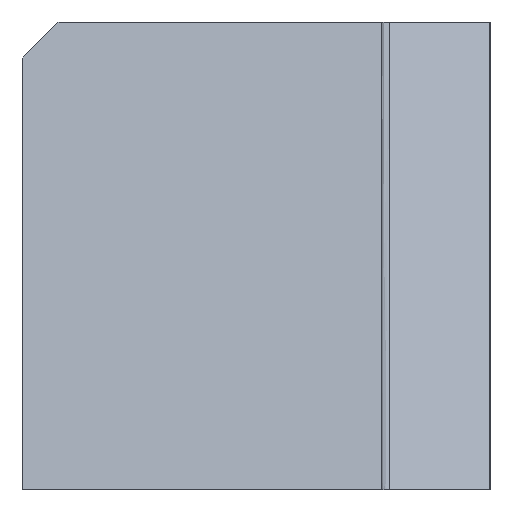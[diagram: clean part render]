
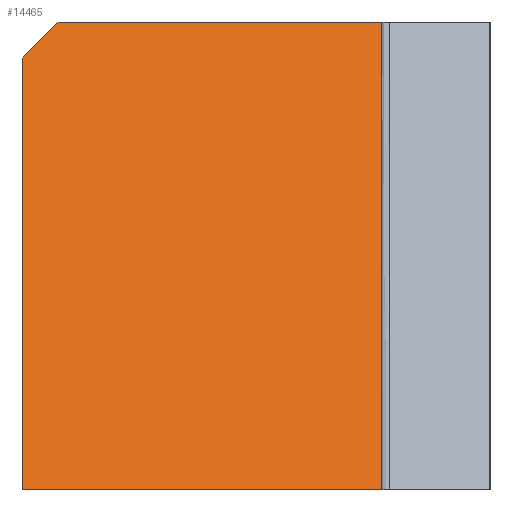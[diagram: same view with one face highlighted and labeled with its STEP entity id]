
A CAD part, left-side view. The second image highlights one B-rep face of the part: STEP entity #14465.
In plain terms, the highlighted planar face has unit normal (-0.943, 0, 0.334).
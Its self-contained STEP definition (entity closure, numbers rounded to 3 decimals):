
#1865=ORIENTED_EDGE('',*,*,#6237,.F.);
#1866=ORIENTED_EDGE('',*,*,#6238,.T.);
#1867=ORIENTED_EDGE('',*,*,#5212,.F.);
#1868=ORIENTED_EDGE('',*,*,#6239,.F.);
#1869=ORIENTED_EDGE('',*,*,#5784,.F.);
#5212=EDGE_CURVE('',#7398,#7399,#8829,.T.);
#5784=EDGE_CURVE('',#7969,#7971,#9222,.T.);
#6237=EDGE_CURVE('',#8423,#7969,#9525,.T.);
#6238=EDGE_CURVE('',#8423,#7399,#9526,.T.);
#6239=EDGE_CURVE('',#7971,#7398,#9527,.T.);
#7398=VERTEX_POINT('',#20420);
#7399=VERTEX_POINT('',#20421);
#7969=VERTEX_POINT('',#22041);
#7971=VERTEX_POINT('',#22044);
#8423=VERTEX_POINT('',#22950);
#8829=LINE('',#20419,#10557);
#9222=LINE('',#22043,#10950);
#9525=LINE('',#22949,#11253);
#9526=LINE('',#22951,#11254);
#9527=LINE('',#22952,#11255);
#10557=VECTOR('',#16243,1000.);
#10950=VECTOR('',#16938,1000.);
#11253=VECTOR('',#17543,1000.);
#11254=VECTOR('',#17544,1000.);
#11255=VECTOR('',#17545,1000.);
#12228=EDGE_LOOP('',(#1865,#1866,#1867,#1868,#1869));
#13086=FACE_BOUND('',#12228,.T.);
#13903=PLANE('',#15571);
#14465=ADVANCED_FACE('',(#13086),#13903,.T.);
#15571=AXIS2_PLACEMENT_3D('',#22948,#17541,#17542);
#16243=DIRECTION('',(0.,1.,0.));
#16938=DIRECTION('',(0.,-1.,0.));
#17541=DIRECTION('',(-0.942,0.,0.334));
#17542=DIRECTION('',(0.,1.,0.));
#17543=DIRECTION('',(0.243,-0.686,0.686));
#17544=DIRECTION('',(-0.334,0.,-0.942));
#17545=DIRECTION('',(-0.334,0.,-0.942));
#20419=CARTESIAN_POINT('',(-13.832,0.,-39.));
#20420=CARTESIAN_POINT('',(-13.832,-30.,-39.));
#20421=CARTESIAN_POINT('',(-13.832,0.,-39.));
#22041=CARTESIAN_POINT('',(0.,-3.,0.));
#22043=CARTESIAN_POINT('',(0.,0.,0.));
#22044=CARTESIAN_POINT('',(0.,-30.,0.));
#22948=CARTESIAN_POINT('',(0.,-30.,0.));
#22949=CARTESIAN_POINT('',(2.101,-8.923,5.923));
#22950=CARTESIAN_POINT('',(-1.064,0.,-3.));
#22951=CARTESIAN_POINT('',(0.,0.,0.));
#22952=CARTESIAN_POINT('',(0.,-30.,0.));
